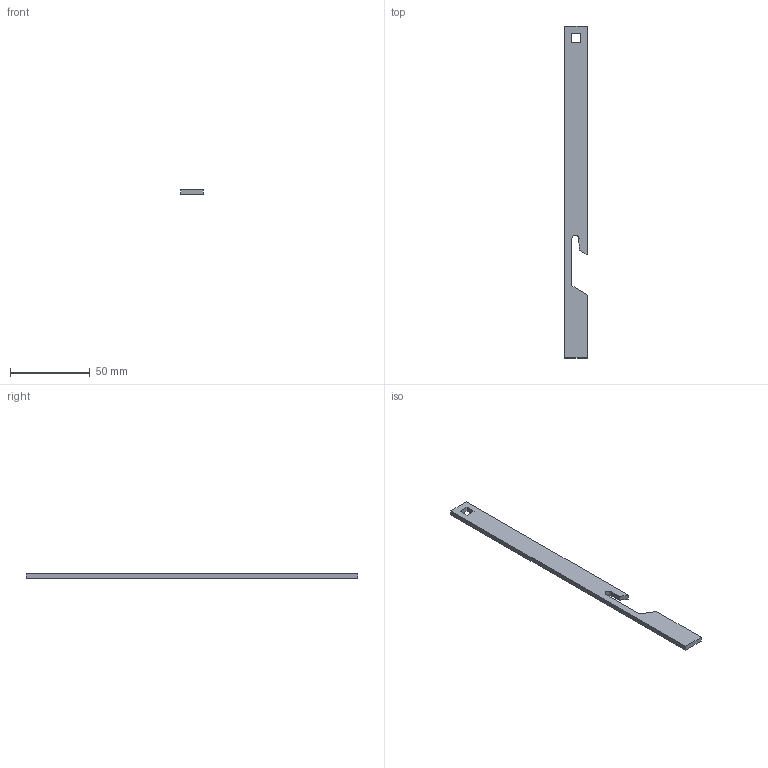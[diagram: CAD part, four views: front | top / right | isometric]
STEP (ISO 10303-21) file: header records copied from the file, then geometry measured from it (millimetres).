
FILE_DESCRIPTION (( 'STEP AP214' ), '1' );
FILE_NAME ('PK390-210.STEP', '2016-09-08T08:21:07', ( '' ), ( '' ), 'SwSTEP 2.0', 'SolidWorks 2015', '' );
FILE_SCHEMA (( 'AUTOMOTIVE_DESIGN' ));
Length unit declared in the file: millimetre
Products named in the file (1): PK390-210
Bounding box: 14 x 208.5 x 3 mm (x, y, z)
Volume: 7820.8 mm3; surface area: 6729.3 mm2
Topology: 1 solids, 1 shells, 17 faces, 45 edges, 30 vertices
Faces by surface type: plane 14, cylinder 3
Entity records: 563 total; most frequent: CARTESIAN_POINT 93, ORIENTED_EDGE 90, DIRECTION 87, EDGE_CURVE 45, VECTOR 39, LINE 39, VERTEX_POINT 30, AXIS2_PLACEMENT_3D 24
